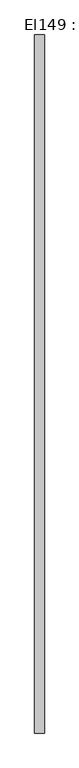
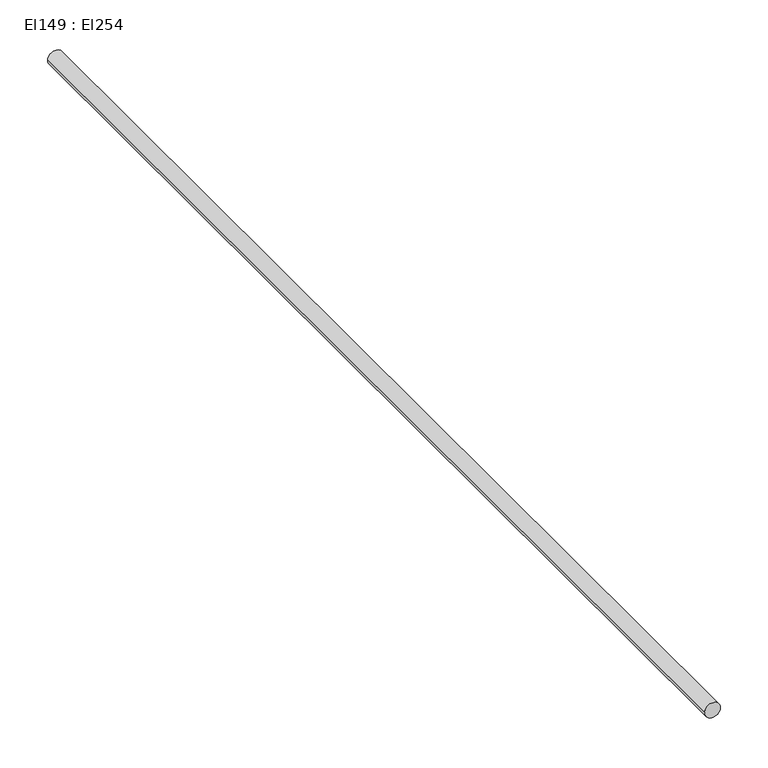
"""IFC4 building model written with IfcOpenShell, lengths in millimetres: cable carrier segment geometry, El149 : El254."""

from ifc_helpers import new_model, si_unit, point, frame, frame_2d, origin, place, context, project, spatial, circle_curve, trimmed, segment, composite_curve, outline, extrude, source, transform, mapped, element, save


def el149_el254_4117062a(model_context):
    return source(origin(), model_context, "Body", "SweptSolid", [
        extrude(outline(composite_curve([segment(trimmed(circle_curve(frame_2d((1800.0, 11064.4746511)), 9.5), [point((1800.0, 11054.9746511))], [point((1800.0, 11073.9746511))], False, "CARTESIAN"), True, "CONTINUOUS"), segment(trimmed(circle_curve(frame_2d((1800.0, 11064.4746511)), 9.5), [point((1800.0, 11073.9746511))], [point((1800.0, 11054.9746511))], False, "CARTESIAN"), True, "CONTINUOUS")], self_intersect=False)), frame((0.0, 16329.2811745, 0.0), z_axis=(0.0, 1.0, 0.0), x_axis=(0.0, 0.0, 1.0)), (0.0, 0.0, 1.0), 1375.06),
    ])


if __name__ == "__main__":
    model = new_model("IFC4")
    model_context = context("Model", 3, world=origin())
    ifc_project = project(units=[si_unit("LENGTHUNIT", "METRE", prefix="MILLI")], contexts=[model_context])
    site = spatial("IfcSite", under=ifc_project)
    building = spatial("IfcBuilding", under=site)
    placement = place(None, origin())
    el149_el254_shape = el149_el254_4117062a(model_context)
    element("IfcCableCarrierSegment", 1, ObjectType="El149 : El254", at=placement, inside=building, context=model_context, shape_type="MappedRepresentation", body=[
        mapped(el149_el254_shape, transform((0.0, 0.0, 0.0), x_axis=(1.0, 0.0, 0.0), y_axis=(0.0, 1.0, 0.0), z_axis=(0.0, 0.0, 1.0))),
    ])
    save(model, "model.ifc")
